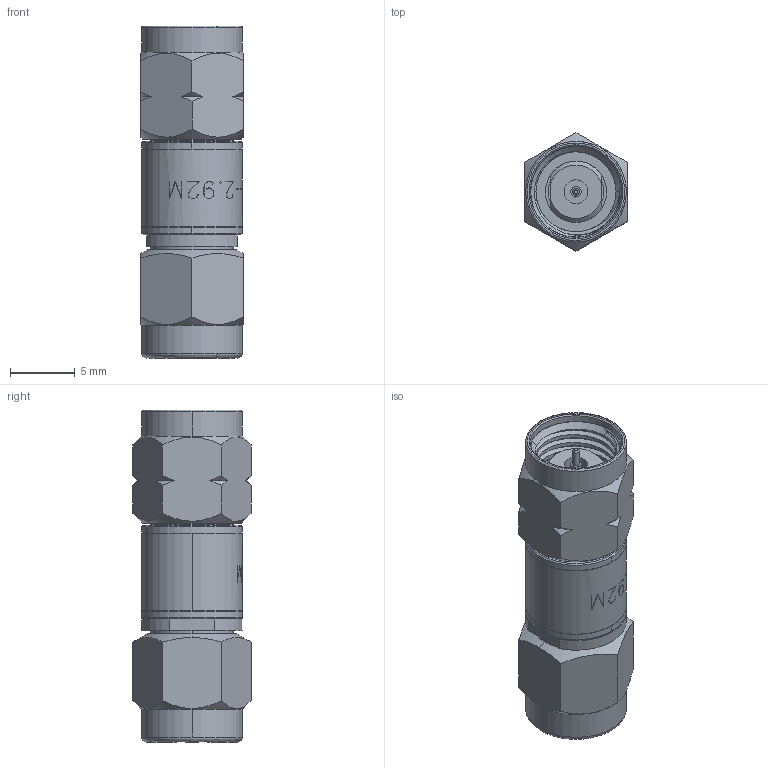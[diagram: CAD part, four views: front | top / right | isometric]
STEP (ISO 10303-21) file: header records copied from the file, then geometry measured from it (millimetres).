
FILE_DESCRIPTION (( 'STEP AP203' ), '1' );
FILE_NAME ('2227000K001-815-Cst.STEP', '2020-10-29T19:38:29', ( '' ), ( '' ), 'SwSTEP 2.0', 'SolidWorks 2019', '' );
FILE_SCHEMA (( 'CONFIG_CONTROL_DESIGN' ));
Length unit declared in the file: inch
Products named in the file (1): 2227000K001-815-Cst
Bounding box: 7.92 x 9.15 x 25.71 mm (x, y, z)
Volume: 987.2 mm3; surface area: 1650.3 mm2
Topology: 1 solids, 1 shells, 477 faces, 1278 edges, 839 vertices
Faces by surface type: bspline 179, plane 143, cylinder 105, cone 50
Entity records: 19780 total; most frequent: CARTESIAN_POINT 8973, ORIENTED_EDGE 2552, DIRECTION 1713, EDGE_CURVE 1276, VERTEX_POINT 839, AXIS2_PLACEMENT_3D 602, EDGE_LOOP 521, LINE 509
